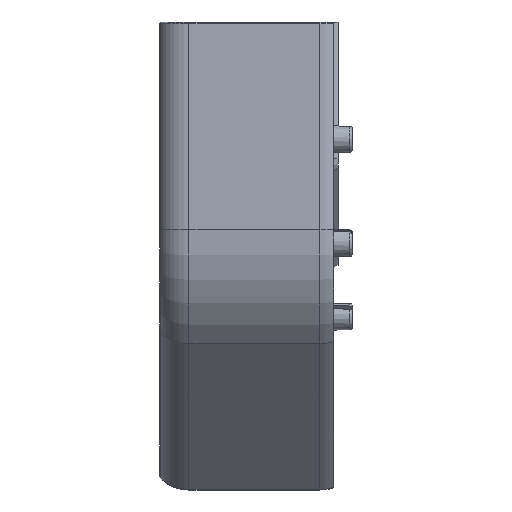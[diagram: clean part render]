
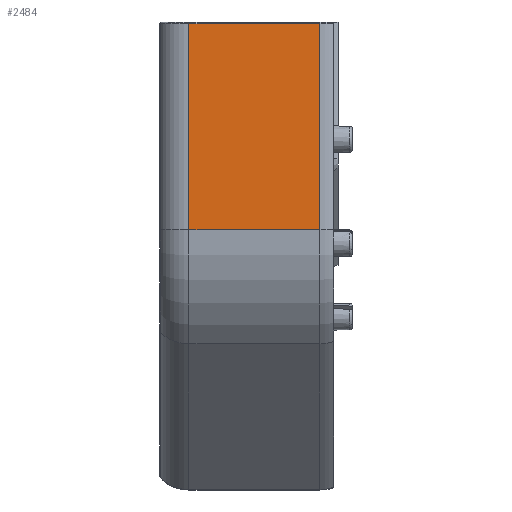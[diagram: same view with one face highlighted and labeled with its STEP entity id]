
A CAD part, left-side view. The second image highlights one B-rep face of the part: STEP entity #2484.
In plain terms, the highlighted planar face has unit normal (-1, 0, 0).
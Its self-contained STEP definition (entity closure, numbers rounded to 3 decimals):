
#15 = LINE ( 'NONE', #2646, #918 ) ;
#175 = EDGE_CURVE ( 'NONE', #806, #996, #2447, .T. ) ;
#255 = CARTESIAN_POINT ( 'NONE',  ( -17.5, 10.94, 6.35 ) ) ;
#524 = CARTESIAN_POINT ( 'NONE',  ( -17.5, 10.94, 0. ) ) ;
#549 = VERTEX_POINT ( 'NONE', #1604 ) ;
#692 = PLANE ( 'NONE',  #750 ) ;
#750 = AXIS2_PLACEMENT_3D ( 'NONE', #1062, #1807, #3963 ) ;
#806 = VERTEX_POINT ( 'NONE', #3225 ) ;
#846 = DIRECTION ( 'NONE',  ( 0., 0., -1. ) ) ;
#918 = VECTOR ( 'NONE', #846, 1000. ) ;
#946 = EDGE_CURVE ( 'NONE', #996, #549, #1187, .T. ) ;
#996 = VERTEX_POINT ( 'NONE', #2652 ) ;
#1062 = CARTESIAN_POINT ( 'NONE',  ( -17.5, -1.25, 0. ) ) ;
#1117 = ORIENTED_EDGE ( 'NONE', *, *, #946, .T. ) ;
#1161 = DIRECTION ( 'NONE',  ( 0., 1., 0. ) ) ;
#1187 = LINE ( 'NONE', #524, #3059 ) ;
#1227 = ORIENTED_EDGE ( 'NONE', *, *, #1465, .F. ) ;
#1247 = ORIENTED_EDGE ( 'NONE', *, *, #175, .T. ) ;
#1465 = EDGE_CURVE ( 'NONE', #806, #4011, #15, .T. ) ;
#1604 = CARTESIAN_POINT ( 'NONE',  ( -17.5, 10.94, -12.843 ) ) ;
#1807 = DIRECTION ( 'NONE',  ( 1., 0., 0. ) ) ;
#1905 = CARTESIAN_POINT ( 'NONE',  ( -17.5, -2.94, -12.843 ) ) ;
#2447 = LINE ( 'NONE', #255, #3060 ) ;
#2468 = LINE ( 'NONE', #1905, #3304 ) ;
#2484 = ADVANCED_FACE ( 'NONE', ( #3322 ), #692, .F. ) ;
#2646 = CARTESIAN_POINT ( 'NONE',  ( -17.5, -1.25, 0. ) ) ;
#2652 = CARTESIAN_POINT ( 'NONE',  ( -17.5, 10.94, 6.35 ) ) ;
#2923 = EDGE_LOOP ( 'NONE', ( #1227, #1247, #1117, #3300 ) ) ;
#3059 = VECTOR ( 'NONE', #4484, 1000. ) ;
#3060 = VECTOR ( 'NONE', #4662, 1000. ) ;
#3225 = CARTESIAN_POINT ( 'NONE',  ( -17.5, -1.25, 6.35 ) ) ;
#3300 = ORIENTED_EDGE ( 'NONE', *, *, #4656, .F. ) ;
#3304 = VECTOR ( 'NONE', #1161, 1000. ) ;
#3322 = FACE_OUTER_BOUND ( 'NONE', #2923, .T. ) ;
#3963 = DIRECTION ( 'NONE',  ( 0., 0., -1. ) ) ;
#4011 = VERTEX_POINT ( 'NONE', #4584 ) ;
#4484 = DIRECTION ( 'NONE',  ( 0., 0., -1. ) ) ;
#4584 = CARTESIAN_POINT ( 'NONE',  ( -17.5, -1.25, -12.843 ) ) ;
#4656 = EDGE_CURVE ( 'NONE', #4011, #549, #2468, .T. ) ;
#4662 = DIRECTION ( 'NONE',  ( 0., 1., 0. ) ) ;
